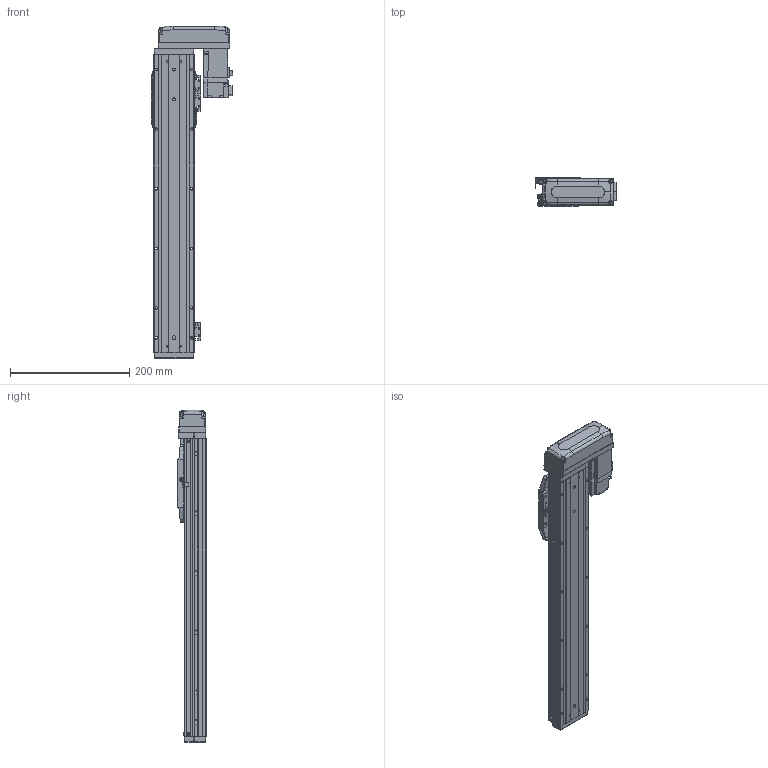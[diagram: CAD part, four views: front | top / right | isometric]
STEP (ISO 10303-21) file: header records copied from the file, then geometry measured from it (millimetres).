
FILE_DESCRIPTION (( 'STEP AP203' ), '1' );
FILE_NAME ('CTHA60-350-BL-M10-C4L.step', '2022-03-19T06:13:56', ( '微软用户' ), ( '微软中国' ), 'SwSTEP 2.0', 'SolidWorks 2020', '' );
FILE_SCHEMA (( 'CONFIG_CONTROL_DESIGN' ));
Length unit declared in the file: millimetre
Products named in the file (18): CTHA60-005; GBT 70.1-M3℅6; CTHA60-033; GB¨uT 70.2-M3¡Á6_M3¡Á6; GBT 70.3-M3℅6; CTHA60-350-BL-M10-C4L; EE_SX911P_R; CTHA60-016; CTHA60-017; HG-KR13（三菱）; CTHA60-021; CTHA60-002; CTHA60-001_500; GBT 70.1-M4×16; CTHA60-031; CTHA60-004; GBT77-2000 M3×3; CTHA60-006-1
Assembly tree (54 placements, depth 2):
  CTHA60-350-BL-M10-C4L
    CTHA60-001_500
    CTHA60-004
    CTHA60-005
    GB¨uT 70.2-M3¡Á6_M3¡Á6  x10
    EE_SX911P_R  x3
    CTHA60-017  x3
    CTHA60-021  x2
    GBT 70.1-M4×16  x10
    GBT77-2000 M3×3  x6
    GBT 70.1-M3℅6  x6
    GBT 70.3-M3℅6  x4
    CTHA60-016  x2
    HG-KR13（三菱）
    CTHA60-002
    CTHA60-031
    CTHA60-006-1
    CTHA60-033
Bounding box: 137.1 x 48 x 557 mm (x, y, z)
Volume: 1047410.4 mm3; surface area: 325762.4 mm2
Topology: 56 solids, 56 shells, 2494 faces, 5981 edges, 3685 vertices
Faces by surface type: plane 1437, cylinder 571, cone 338, torus 92, bspline 32, sphere 24
Entity records: 44365 total; most frequent: CARTESIAN_POINT 8586, DIRECTION 6836, ORIENTED_EDGE 6770, EDGE_CURVE 3385, LINE 2400, VECTOR 2400, AXIS2_PLACEMENT_3D 2218, VERTEX_POINT 2144
